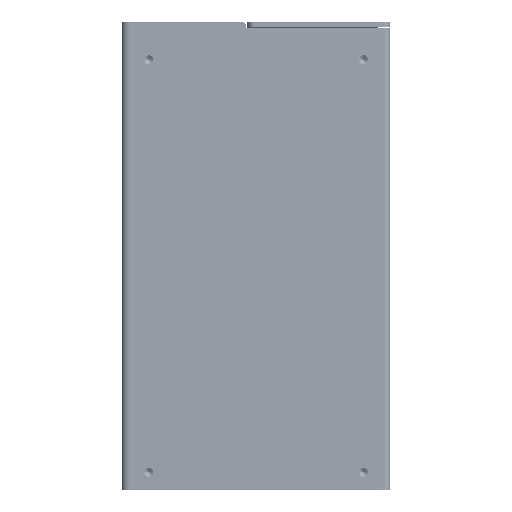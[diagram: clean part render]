
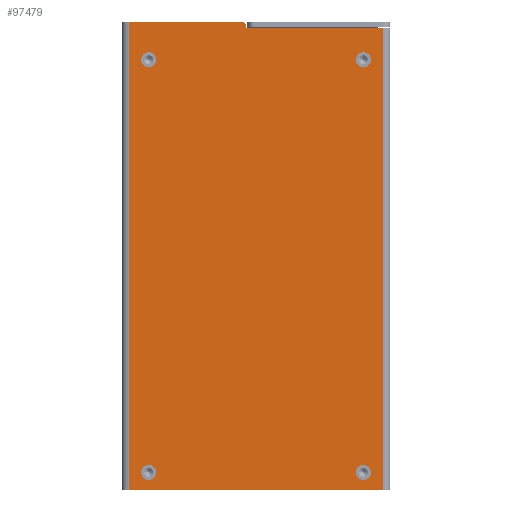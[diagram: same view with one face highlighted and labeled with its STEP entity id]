
A CAD part, front view. The second image highlights one B-rep face of the part: STEP entity #97479.
In plain terms, the highlighted planar face has unit normal (0, -1, 0) as drawn and (0, 0, -1) by its records, which use the part's own axes.
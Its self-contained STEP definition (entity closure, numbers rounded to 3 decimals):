
#923 = EDGE_CURVE ( 'NONE', #41739, #138829, #155619, .T. ) ;
#1307 = DIRECTION ( 'NONE',  ( 1., 0., 0. ) ) ;
#2585 = CARTESIAN_POINT ( 'NONE',  ( -69.2, 0., 0. ) ) ;
#3028 = CIRCLE ( 'NONE', #138289, 2.125 ) ;
#5177 = CARTESIAN_POINT ( 'NONE',  ( -58.5, 30.435, 0. ) ) ;
#5921 = CARTESIAN_POINT ( 'NONE',  ( 63.5, -36.1, 0. ) ) ;
#6550 = ORIENTED_EDGE ( 'NONE', *, *, #136170, .F. ) ;
#7373 = AXIS2_PLACEMENT_3D ( 'NONE', #72871, #59893, #97111 ) ;
#10838 = LINE ( 'NONE', #79943, #148238 ) ;
#13404 = DIRECTION ( 'NONE',  ( 0., 0., 1. ) ) ;
#13666 = DIRECTION ( 'NONE',  ( 0., 0., 1. ) ) ;
#13987 = ORIENTED_EDGE ( 'NONE', *, *, #33305, .T. ) ;
#15860 = CARTESIAN_POINT ( 'NONE',  ( -58.5, -30.435, 0. ) ) ;
#17763 = EDGE_CURVE ( 'NONE', #114555, #169278, #80210, .T. ) ;
#18043 = VECTOR ( 'NONE', #116741, 1000. ) ;
#18312 = VERTEX_POINT ( 'NONE', #104228 ) ;
#18967 = ORIENTED_EDGE ( 'NONE', *, *, #73917, .T. ) ;
#19714 = CARTESIAN_POINT ( 'NONE',  ( -69.2, 3.9, 0. ) ) ;
#25398 = VECTOR ( 'NONE', #136557, 1000. ) ;
#25635 = EDGE_CURVE ( 'NONE', #87704, #118868, #29376, .T. ) ;
#29376 = LINE ( 'NONE', #2585, #25398 ) ;
#33305 = EDGE_CURVE ( 'NONE', #162497, #18312, #115897, .T. ) ;
#34028 = CIRCLE ( 'NONE', #89299, 2.125 ) ;
#34487 = DIRECTION ( 'NONE',  ( 1., 0., 0. ) ) ;
#35850 = CARTESIAN_POINT ( 'NONE',  ( -68.2, 3.9, 0. ) ) ;
#36281 = EDGE_CURVE ( 'NONE', #18312, #162497, #3028, .T. ) ;
#39777 = LINE ( 'NONE', #146949, #18043 ) ;
#41739 = VERTEX_POINT ( 'NONE', #71278 ) ;
#41814 = LINE ( 'NONE', #55637, #119543 ) ;
#43459 = AXIS2_PLACEMENT_3D ( 'NONE', #159490, #92946, #1307 ) ;
#47471 = DIRECTION ( 'NONE',  ( 0., 1., 0. ) ) ;
#49002 = EDGE_LOOP ( 'NONE', ( #106521, #111535 ) ) ;
#49155 = VERTEX_POINT ( 'NONE', #144567 ) ;
#51957 = AXIS2_PLACEMENT_3D ( 'NONE', #88323, #140221, #61526 ) ;
#52289 = FACE_BOUND ( 'NONE', #86945, .T. ) ;
#52637 = EDGE_CURVE ( 'NONE', #49155, #152239, #39777, .T. ) ;
#53117 = FACE_BOUND ( 'NONE', #111509, .T. ) ;
#53235 = CARTESIAN_POINT ( 'NONE',  ( -56.375, 30.435, 0. ) ) ;
#54668 = VERTEX_POINT ( 'NONE', #146193 ) ;
#55637 = CARTESIAN_POINT ( 'NONE',  ( -63.5, 36.1, 0. ) ) ;
#59490 = ORIENTED_EDGE ( 'NONE', *, *, #123092, .T. ) ;
#59893 = DIRECTION ( 'NONE',  ( 0., 0., 1. ) ) ;
#61322 = CARTESIAN_POINT ( 'NONE',  ( 63.5, -38.1, 0. ) ) ;
#61526 = DIRECTION ( 'NONE',  ( 1., 0., 0. ) ) ;
#64819 = CARTESIAN_POINT ( 'NONE',  ( 63.5, -36.1, 0. ) ) ;
#66004 = DIRECTION ( 'NONE',  ( 0., 0., 1. ) ) ;
#66664 = EDGE_CURVE ( 'NONE', #49155, #118868, #121860, .T. ) ;
#68588 = DIRECTION ( 'NONE',  ( 0., 0., 1. ) ) ;
#69411 = VECTOR ( 'NONE', #112198, 1000. ) ;
#70875 = DIRECTION ( 'NONE',  ( 1., 0., 0. ) ) ;
#71278 = CARTESIAN_POINT ( 'NONE',  ( -60.625, -30.435, 0. ) ) ;
#72871 = CARTESIAN_POINT ( 'NONE',  ( 58.5, 30.435, 0. ) ) ;
#73090 = CARTESIAN_POINT ( 'NONE',  ( -60.625, 30.435, 0. ) ) ;
#73828 = CIRCLE ( 'NONE', #43459, 2.125 ) ;
#73917 = EDGE_CURVE ( 'NONE', #101874, #152239, #10838, .T. ) ;
#74413 = ORIENTED_EDGE ( 'NONE', *, *, #81968, .T. ) ;
#74559 = AXIS2_PLACEMENT_3D ( 'NONE', #143817, #66004, #78116 ) ;
#74879 = AXIS2_PLACEMENT_3D ( 'NONE', #105886, #13404, #90361 ) ;
#75157 = EDGE_CURVE ( 'NONE', #138829, #41739, #156985, .T. ) ;
#78116 = DIRECTION ( 'NONE',  ( 1., 0., 0. ) ) ;
#78402 = CARTESIAN_POINT ( 'NONE',  ( 63.5, 36.1, 0. ) ) ;
#79943 = CARTESIAN_POINT ( 'NONE',  ( -67.6, 0., 0. ) ) ;
#80210 = CIRCLE ( 'NONE', #102298, 2.125 ) ;
#81752 = CARTESIAN_POINT ( 'NONE',  ( 60.625, -30.435, 0. ) ) ;
#81968 = EDGE_CURVE ( 'NONE', #54668, #157994, #34028, .T. ) ;
#84287 = ORIENTED_EDGE ( 'NONE', *, *, #923, .T. ) ;
#84681 = CARTESIAN_POINT ( 'NONE',  ( 58.5, -30.435, 0. ) ) ;
#86866 = EDGE_CURVE ( 'NONE', #157994, #54668, #170262, .T. ) ;
#86945 = EDGE_LOOP ( 'NONE', ( #150347, #84287 ) ) ;
#87704 = VERTEX_POINT ( 'NONE', #114539 ) ;
#87729 = DIRECTION ( 'NONE',  ( 0., 0., -1. ) ) ;
#88323 = CARTESIAN_POINT ( 'NONE',  ( -58.5, -30.435, 0. ) ) ;
#89299 = AXIS2_PLACEMENT_3D ( 'NONE', #94898, #13666, #106164 ) ;
#90361 = DIRECTION ( 'NONE',  ( 1., 0., 0. ) ) ;
#91146 = DIRECTION ( 'NONE',  ( 1., 0., 0. ) ) ;
#91160 = CARTESIAN_POINT ( 'NONE',  ( 60.625, 30.435, 0. ) ) ;
#91504 = AXIS2_PLACEMENT_3D ( 'NONE', #35850, #87729, #91146 ) ;
#92946 = DIRECTION ( 'NONE',  ( 0., 0., 1. ) ) ;
#94898 = CARTESIAN_POINT ( 'NONE',  ( 58.5, 30.435, 0. ) ) ;
#97111 = DIRECTION ( 'NONE',  ( 1., 0., 0. ) ) ;
#97479 = ADVANCED_FACE ( 'NONE', ( #52289, #53117, #117155, #120576, #105033 ), #131808, .F. ) ;
#101874 = VERTEX_POINT ( 'NONE', #154670 ) ;
#102298 = AXIS2_PLACEMENT_3D ( 'NONE', #5177, #139114, #70875 ) ;
#102759 = ORIENTED_EDGE ( 'NONE', *, *, #25635, .F. ) ;
#104228 = CARTESIAN_POINT ( 'NONE',  ( 56.375, -30.435, 0. ) ) ;
#105033 = FACE_OUTER_BOUND ( 'NONE', #118081, .T. ) ;
#105886 = CARTESIAN_POINT ( 'NONE',  ( 0., 0., 0. ) ) ;
#106164 = DIRECTION ( 'NONE',  ( 1., 0., 0. ) ) ;
#106521 = ORIENTED_EDGE ( 'NONE', *, *, #17763, .T. ) ;
#110432 = ORIENTED_EDGE ( 'NONE', *, *, #168904, .T. ) ;
#111509 = EDGE_LOOP ( 'NONE', ( #13987, #127412 ) ) ;
#111535 = ORIENTED_EDGE ( 'NONE', *, *, #129306, .T. ) ;
#112198 = DIRECTION ( 'NONE',  ( -1., 0., 0. ) ) ;
#114539 = CARTESIAN_POINT ( 'NONE',  ( -69.2, 36.1, 0. ) ) ;
#114555 = VERTEX_POINT ( 'NONE', #53235 ) ;
#115897 = CIRCLE ( 'NONE', #74559, 2.125 ) ;
#116741 = DIRECTION ( 'NONE',  ( 1., 0., 0. ) ) ;
#117155 = FACE_BOUND ( 'NONE', #164134, .T. ) ;
#118081 = EDGE_LOOP ( 'NONE', ( #128951, #136891, #102759, #59490, #6550, #110432, #18967 ) ) ;
#118868 = VERTEX_POINT ( 'NONE', #19714 ) ;
#119543 = VECTOR ( 'NONE', #122193, 1000. ) ;
#120576 = FACE_BOUND ( 'NONE', #49002, .T. ) ;
#121289 = DIRECTION ( 'NONE',  ( 1., 0., 0. ) ) ;
#121860 = CIRCLE ( 'NONE', #91504, 1. ) ;
#122193 = DIRECTION ( 'NONE',  ( 1., 0., 0. ) ) ;
#123092 = EDGE_CURVE ( 'NONE', #87704, #139308, #41814, .T. ) ;
#127412 = ORIENTED_EDGE ( 'NONE', *, *, #36281, .T. ) ;
#128951 = ORIENTED_EDGE ( 'NONE', *, *, #52637, .F. ) ;
#129306 = EDGE_CURVE ( 'NONE', #169278, #114555, #73828, .T. ) ;
#131808 = PLANE ( 'NONE',  #74879 ) ;
#132661 = DIRECTION ( 'NONE',  ( 0., 1., 0. ) ) ;
#136170 = EDGE_CURVE ( 'NONE', #169779, #139308, #137468, .T. ) ;
#136266 = AXIS2_PLACEMENT_3D ( 'NONE', #15860, #68588, #121289 ) ;
#136557 = DIRECTION ( 'NONE',  ( 0., -1., 0. ) ) ;
#136891 = ORIENTED_EDGE ( 'NONE', *, *, #66664, .T. ) ;
#137468 = LINE ( 'NONE', #61322, #164221 ) ;
#138289 = AXIS2_PLACEMENT_3D ( 'NONE', #84681, #152930, #34487 ) ;
#138829 = VERTEX_POINT ( 'NONE', #163379 ) ;
#139114 = DIRECTION ( 'NONE',  ( 0., 0., 1. ) ) ;
#139308 = VERTEX_POINT ( 'NONE', #78402 ) ;
#140221 = DIRECTION ( 'NONE',  ( 0., 0., 1. ) ) ;
#143817 = CARTESIAN_POINT ( 'NONE',  ( 58.5, -30.435, 0. ) ) ;
#144355 = CARTESIAN_POINT ( 'NONE',  ( -67.6, 2.9, 0. ) ) ;
#144567 = CARTESIAN_POINT ( 'NONE',  ( -68.2, 2.9, 0. ) ) ;
#146193 = CARTESIAN_POINT ( 'NONE',  ( 56.375, 30.435, 0. ) ) ;
#146949 = CARTESIAN_POINT ( 'NONE',  ( 0., 2.9, 0. ) ) ;
#148238 = VECTOR ( 'NONE', #132661, 1000. ) ;
#150347 = ORIENTED_EDGE ( 'NONE', *, *, #75157, .T. ) ;
#152239 = VERTEX_POINT ( 'NONE', #144355 ) ;
#152815 = LINE ( 'NONE', #5921, #69411 ) ;
#152930 = DIRECTION ( 'NONE',  ( 0., 0., 1. ) ) ;
#154670 = CARTESIAN_POINT ( 'NONE',  ( -67.6, -36.1, 0. ) ) ;
#155619 = CIRCLE ( 'NONE', #136266, 2.125 ) ;
#156985 = CIRCLE ( 'NONE', #51957, 2.125 ) ;
#157994 = VERTEX_POINT ( 'NONE', #91160 ) ;
#159490 = CARTESIAN_POINT ( 'NONE',  ( -58.5, 30.435, 0. ) ) ;
#162497 = VERTEX_POINT ( 'NONE', #81752 ) ;
#163379 = CARTESIAN_POINT ( 'NONE',  ( -56.375, -30.435, 0. ) ) ;
#164134 = EDGE_LOOP ( 'NONE', ( #164856, #74413 ) ) ;
#164221 = VECTOR ( 'NONE', #47471, 1000. ) ;
#164856 = ORIENTED_EDGE ( 'NONE', *, *, #86866, .T. ) ;
#168904 = EDGE_CURVE ( 'NONE', #169779, #101874, #152815, .T. ) ;
#169278 = VERTEX_POINT ( 'NONE', #73090 ) ;
#169779 = VERTEX_POINT ( 'NONE', #64819 ) ;
#170262 = CIRCLE ( 'NONE', #7373, 2.125 ) ;
